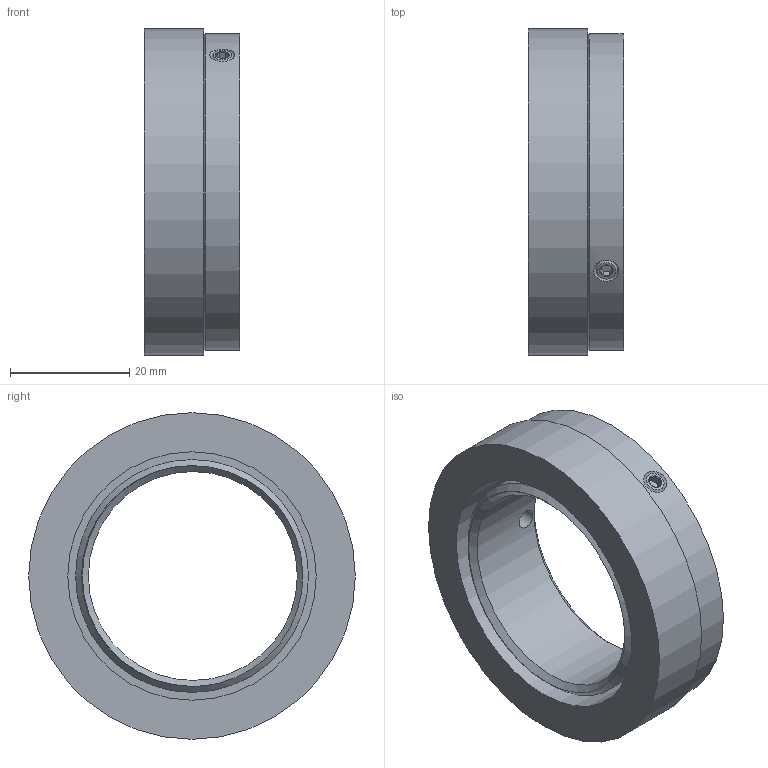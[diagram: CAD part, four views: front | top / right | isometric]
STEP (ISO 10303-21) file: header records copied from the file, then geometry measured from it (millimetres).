
FILE_DESCRIPTION (( 'STEP AP203' ), '1' );
FILE_NAME ('8.RI50.055.3500.112.STEP', '2013-07-17T13:35:34', ( 'Hodot' ), ( '' ), 'SwSTEP 2.0', 'SolidWorks 2012', '' );
FILE_SCHEMA (( 'CONFIG_CONTROL_DESIGN' ));
Length unit declared in the file: millimetre
Products named in the file (1): 8.RI50.055.3500.112
Bounding box: 16 x 54.7 x 54.7 mm (x, y, z)
Volume: 19145.5 mm3; surface area: 11466.8 mm2
Topology: 4 solids, 4 shells, 54 faces, 107 edges, 62 vertices
Faces by surface type: cone 23, plane 22, cylinder 9
Full cylindrical faces by diameter (mm): 3.3 x2, 4 x2, 35 x1, 39 x1, 41.6 x1, 53 x1, 54.7 x1
Entity records: 1570 total; most frequent: CARTESIAN_POINT 528, DIRECTION 206, ORIENTED_EDGE 154, AXIS2_PLACEMENT_3D 91, EDGE_LOOP 83, EDGE_CURVE 77, FACE_OUTER_BOUND 63, ADVANCED_FACE 54
